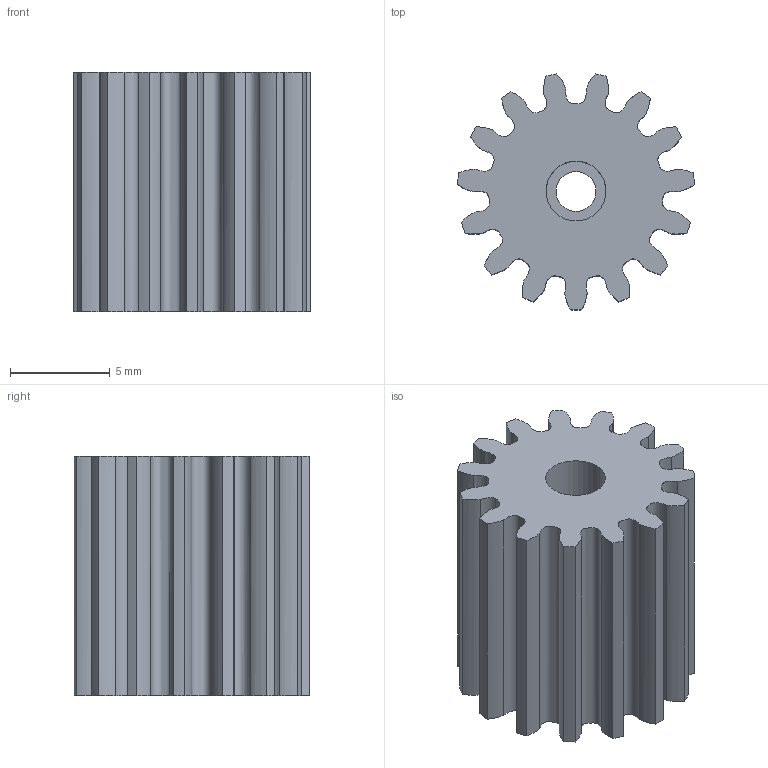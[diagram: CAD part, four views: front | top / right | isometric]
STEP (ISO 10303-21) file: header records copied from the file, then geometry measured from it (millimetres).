
FILE_DESCRIPTION(/* description */ (''),/* implementation_level */ '2;1');
FILE_NAME(/* name */ 'C:/Users/Diego/Downloads/9/Animalitos/Engranaje.step',/* time_stamp */ '2019-07-05T22:38:40-04:00',/* author */ (''),/* organization */ (''),/* preprocessor_version */ 'ST-DEVELOPER v18',/* originating_system */ 'Autodesk Translation Framework v8.2.0.1029',/* authorisation */ '');
FILE_SCHEMA (('AUTOMOTIVE_DESIGN { 1 0 10303 214 3 1 1 }'));
Length unit declared in the file: millimetre
Products named in the file (1): Part3
Bounding box: 11.88 x 11.82 x 12 mm (x, y, z)
Volume: 933.1 mm3; surface area: 1072.8 mm2
Topology: 1 solids, 1 shells, 65 faces, 186 edges, 124 vertices
Faces by surface type: bspline 45, cylinder 17, plane 3
Full cylindrical faces by diameter (mm): 2 x1, 3 x1
Entity records: 5481 total; most frequent: CARTESIAN_POINT 4021, ORIENTED_EDGE 372, EDGE_CURVE 186, DIRECTION 172, VERTEX_POINT 124, B_SPLINE_CURVE_WITH_KNOTS 90, EDGE_LOOP 68, FACE_OUTER_BOUND 65
